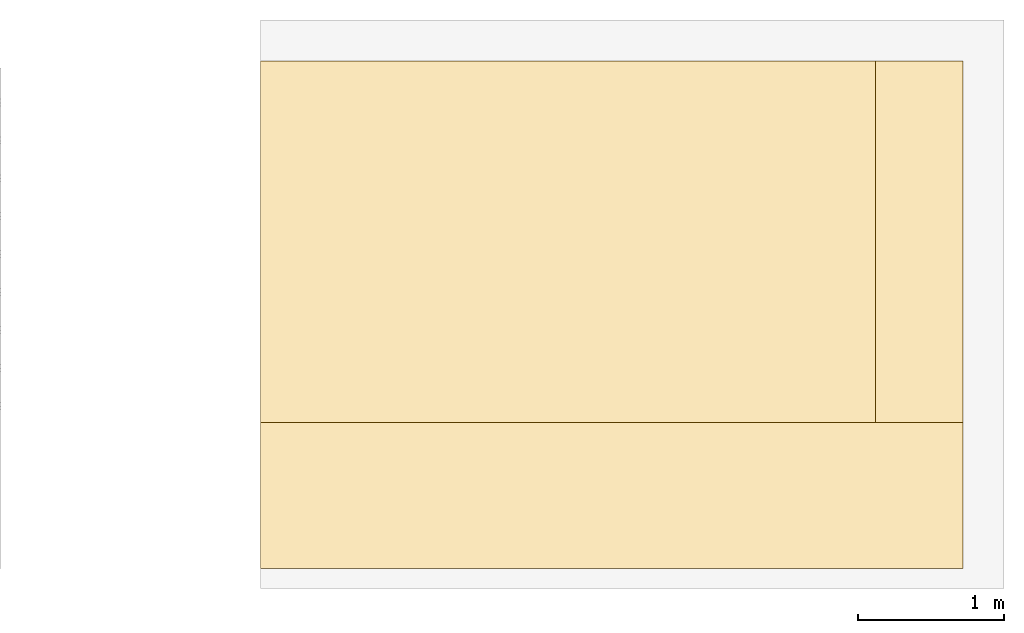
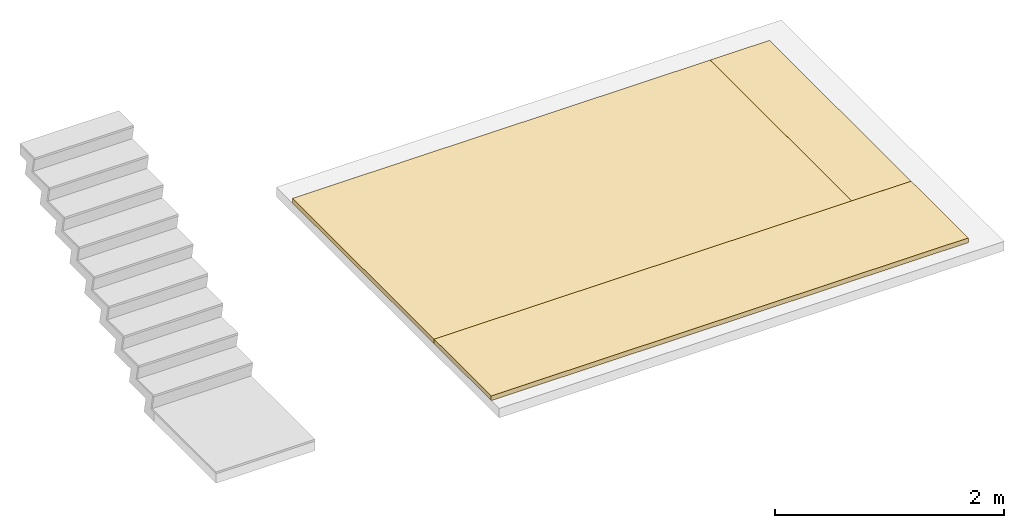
# One storey, part 3 of 4: 3 coverings.
"""IFC2X3 building model written with IfcOpenShell, lengths in millimetres."""

from ifc_helpers import new_model, entity, si_unit, converted_unit, derived_unit, money_unit, direction, frame, origin_with_axes, place, context, subcontext, project, spatial, polyline, outline, extrude, material, type_object, element, save


model = new_model("IFC2X3")

# Units and contexts
model_context = context("Model", 3, precision=0.01, world=origin_with_axes(), true_north=direction((0.293984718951, 0.955810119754)))
body_context = subcontext(model_context, "Body", "Model", "MODEL_VIEW")
ifc_project = project(units=[si_unit("LENGTHUNIT", "METRE", prefix="MILLI"), si_unit("AREAUNIT", "SQUARE_METRE"), si_unit("VOLUMEUNIT", "CUBIC_METRE"), converted_unit("PLANEANGLEUNIT", "DEGREE", entity("IfcPlaneAngleMeasure", 0.0174532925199), si_unit("PLANEANGLEUNIT", "RADIAN"), dimensions=[0, 0, 0, 0, 0, 0, 0]), si_unit("SOLIDANGLEUNIT", "STERADIAN"), money_unit("USD"), converted_unit("TIMEUNIT", "Year", entity("IfcTimeMeasure", 31556926.0), si_unit("TIMEUNIT", "SECOND"), dimensions=[0, 0, 1, 0, 0, 0, 0]), si_unit("MASSUNIT", "GRAM", prefix="KILO"), si_unit("THERMODYNAMICTEMPERATUREUNIT", "DEGREE_CELSIUS"), si_unit("LUMINOUSINTENSITYUNIT", "LUMEN"), si_unit("ENERGYUNIT", "JOULE", prefix="MEGA"), derived_unit("THERMALCONDUCTANCEUNIT", [(si_unit("POWERUNIT", "WATT"), 1), (si_unit("LENGTHUNIT", "METRE"), -1), (si_unit("THERMODYNAMICTEMPERATUREUNIT", "KELVIN"), -1)]), derived_unit("SPECIFICHEATCAPACITYUNIT", [(si_unit("ENERGYUNIT", "JOULE"), 1), (si_unit("MASSUNIT", "GRAM", prefix="KILO"), -1), (si_unit("THERMODYNAMICTEMPERATUREUNIT", "KELVIN"), -1)]), derived_unit("MASSDENSITYUNIT", [(si_unit("MASSUNIT", "GRAM", prefix="KILO"), 1), (si_unit("VOLUMEUNIT", "CUBIC_METRE"), -1)])], contexts=[model_context])

# Site, building, storey
site_placement = place(None, origin_with_axes())
site = spatial("IfcSite", under=ifc_project, at=site_placement, Name="Local", CompositionType="ELEMENT")
building_placement = place(site_placement, origin_with_axes())
building = spatial("IfcBuilding", under=site, at=building_placement, Name="Construção", CompositionType="ELEMENT")
storey_placement = place(building_placement, frame((0.0, 0.0, 1300.0), z_axis=(0.0, 0.0, 1.0), x_axis=(1.0, 0.0, 0.0)))
storey = spatial("IfcBuildingStorey", under=building, at=storey_placement, Name="Pavimento Intermediário", CompositionType="ELEMENT", Elevation=1300.0)

# Coverings
ifc_material = material(Name="GENÉRICO - REV.  INTERNO")
covering_type = type_object("IfcCoveringType", Name="GENÉRICO - REV.  INTERNO 50", PredefinedType="FLOORING")
covering_1_placement = place(storey_placement, frame((20299.6450727, 4490.63219788, 0.0), z_axis=(0.0, 0.0, 1.0), x_axis=(1.0, 0.0, 0.0)))
element("IfcCovering", 1, at=covering_1_placement, inside=storey, type_object=covering_type, material=ifc_material, Name="Piso", PredefinedType="FLOORING", context=body_context, shape_type="SweptSolid", body=[
    extrude(outline(polyline([(0.0, 0.0), (0.0, 2480.00002295), (-600.0, 2480.00002295), (-600.0, 0.0), (0.0, 0.0)])), origin_with_axes(), (0.0, 0.0, 1.0), 50.0),
])
covering_2_placement = place(storey_placement, frame((15479.6450727, 3490.63219788, 0.0), z_axis=(0.0, 0.0, 1.0), x_axis=(1.0, 0.0, 0.0)))
element("IfcCovering", 2, at=covering_2_placement, inside=storey, type_object=covering_type, material=ifc_material, Name="Piso", PredefinedType="FLOORING", context=body_context, shape_type="SweptSolid", body=[
    extrude(outline(polyline([(0.0, 0.0), (4820.0, 0.0), (4820.0, 1000.0), (0.0, 1000.0), (0.0, 0.0)])), origin_with_axes(), (0.0, 0.0, 1.0), 50.0),
])
covering_3_placement = place(storey_placement, frame((19699.6450727, 6970.63222083, 0.0), z_axis=(0.0, 0.0, 1.0), x_axis=(1.0, 0.0, 0.0)))
element("IfcCovering", 3, at=covering_3_placement, inside=storey, type_object=covering_type, material=ifc_material, Name="Piso", PredefinedType="FLOORING", context=body_context, shape_type="SweptSolid", body=[
    extrude(outline(polyline([(0.0, 0.0), (-4220.0, 0.0), (-4220.0, -2480.00002295), (0.0, -2480.00002295), (0.0, 0.0)])), origin_with_axes(), (0.0, 0.0, 1.0), 50.0),
])

save(model, "model.ifc")
